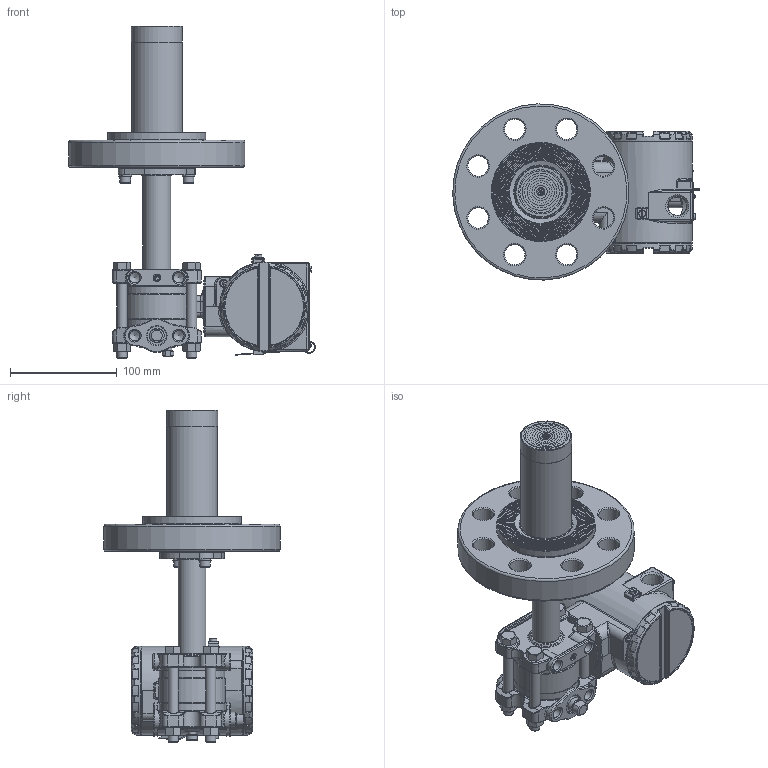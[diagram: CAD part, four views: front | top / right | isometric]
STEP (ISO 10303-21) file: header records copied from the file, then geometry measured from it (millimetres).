
FILE_DESCRIPTION(/* description */ (''),/* implementation_level */ '2;1');
FILE_NAME(/* name */ 'F:\Area\Desenvolvimento_2\Projects\Sensor\projetos\LD30X\montagens 3d - clientes\SELO NIVEL\LD30XL 2-600 RF ext 100 ref 1-4NPT purga acima.stp',/* time_stamp */ '2023-02-10T16:12:44-03:00',/* author */ ('inventor02'),/* organization */ (''),/* preprocessor_version */ 'ST-DEVELOPER v17',/* originating_system */ 'Autodesk Inventor 2019',/* authorisation */ '');
FILE_SCHEMA (('CONFIG_CONTROL_DESIGN'));
Products named in the file (41): LD30XL 2-600 RF ext 100 ref 1-4NPT purga acima; 204-0301-L-2 600 RF ext 100 purga acima; nivel fx3 com baixa diferencial 1-4NPT purga acima; involucro fx0-3 apos a usinagem final; flange diferencial std purga; 101-C-7484-01 flange selo nivel VR; 201-A-0504-tubo união teste 1; bujao 1-4NPT; Sangria; Porca 3-8 x 16 UNC; Paraf. 3-8 x 16 UNC; adaptação tubo x flanges 1-1-2 a 4pol; 101-B-0161-anel cortado do tubo - teste1; 101-B-0162-flange fixação tubo; ANSI B18.3.1M - M6x1 x 16; DIN 127 - A 6; flange 2 600 ext 100; 101-C-0126-10; 101-B-7700-01-100; 101-B-0168-11; carcaça vazia com tampas e plaqueta; carcaça LD inox sem letras; Subconjunto plaqueta 300; Plaqueta transmissor; Parafuso da Plaqueta; Rebite da Plaqueta; 096-A-0169-03; 101-A-0502-01; Chapa aterramento externo; ISO 1207 - M4 x 8; DIN 915 - M6 x 10; ANSI B18.3.1M - M4x0,7 x 8; Subconjunto tampa com visor aluminio; tampa pintada; VIDRO DO VISOR; oring 41x1 vidro tampa; Trava do vidro da tampa com visor; trava do vidro VH256; Subconjunto tampa sem visor-aluminio; tampa cega 300 pintada p0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
Assembly tree (51 placements, depth 4):
  LD30XL 2-600 RF ext 100 ref 1-4NPT purga acima
    204-0301-L-2 600 RF ext 100 purga acima
      nivel fx3 com baixa diferencial 1-4NPT purga acima
        involucro fx0-3 apos a usinagem final
        flange diferencial std purga
        101-C-7484-01 flange selo nivel VR
        201-A-0504-tubo união teste 1
        DIN 915 - M6 x 10
        bujao 1-4NPT
        Sangria
        Porca 3-8 x 16 UNC  x4
        Paraf. 3-8 x 16 UNC  x4
      adaptação tubo x flanges 1-1-2 a 4pol
        101-B-0161-anel cortado do tubo - teste1
        101-B-0162-flange fixação tubo
        ANSI B18.3.1M - M6x1 x 16  x2
        DIN 127 - A 6  x2
      flange 2 600 ext 100
        101-C-0126-10
        101-B-7700-01-100
        101-B-0168-11
    carcaça vazia com tampas e plaqueta
      carcaça LD inox sem letras
      Subconjunto plaqueta 300
        Plaqueta transmissor
        Parafuso da Plaqueta
        Rebite da Plaqueta
        096-A-0169-03
        101-A-0502-01
      Chapa aterramento externo
      ISO 1207 - M4 x 8
      DIN 915 - M6 x 10
      ANSI B18.3.1M - M4x0,7 x 8  x2
      Subconjunto tampa com visor aluminio
        tampa pintada
        VIDRO DO VISOR
        oring 41x1 vidro tampa
        Trava do vidro da tampa com visor
        trava do vidro VH256
        00034775-0
      Subconjunto tampa sem visor-aluminio
        tampa cega 300 pintada p0
        00034775-0
Bounding box: 230.71 x 164.84 x 310.7 mm (x, y, z)
Volume: 1186843.2 mm3; surface area: 353225.7 mm2
Topology: 43 solids, 43 shells, 2756 faces, 6595 edges, 3904 vertices
Faces by surface type: bspline 666, cylinder 660, plane 569, torus 479, cone 256, sphere 126
Full cylindrical faces by diameter (mm): 2 x4, 2.1 x2, 2.459 x5, 2.5 x1, 2.642 x1, 2.7 x1, 2.8 x1, 3 x4, 3.242 x4, 3.5 x5, 3.571 x1, 4 x5, 4.3 x1, 4.4 x1, 4.917 x4, 5 x1, 5.5 x3, 6 x6, 6.647 x1, 7 x7, 7.087 x2, 7.6 x2, 7.798 x4, 8 x1, 8.7 x2, 9.525 x4, 9.728 x6, 10 x2, 10.5 x8, 10.719 x2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
Entity records: 95071 total; most frequent: CARTESIAN_POINT 34704, DIRECTION 12469, ORIENTED_EDGE 12370, EDGE_CURVE 6185, AXIS2_PLACEMENT_3D 5507, VERTEX_POINT 3710, CIRCLE 3261, EDGE_LOOP 2813
